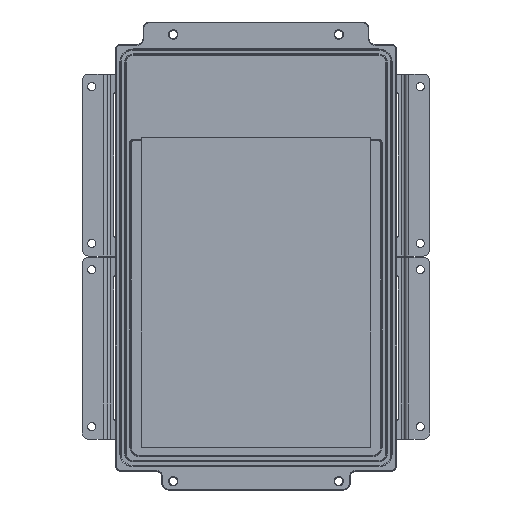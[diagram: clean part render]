
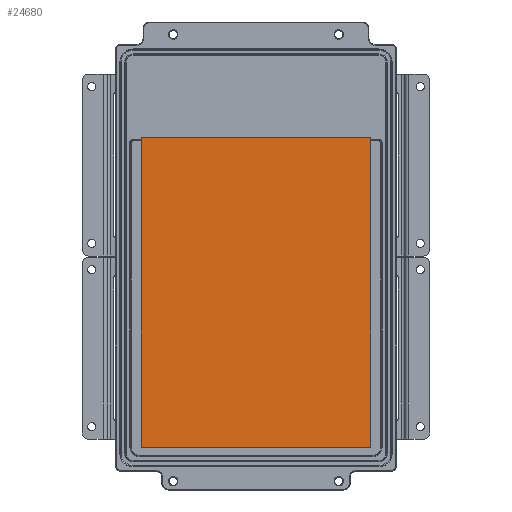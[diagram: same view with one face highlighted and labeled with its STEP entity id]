
A CAD part, front view. The second image highlights one B-rep face of the part: STEP entity #24680.
In plain terms, the highlighted planar face has unit normal (0, -1, 0).
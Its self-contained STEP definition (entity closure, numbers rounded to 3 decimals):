
#2479 = CARTESIAN_POINT ( 'NONE',  ( 93.5, -29.5, 96. ) ) ;
#4605 = CARTESIAN_POINT ( 'NONE',  ( 93.5, -29.5, -151. ) ) ;
#8665 = ORIENTED_EDGE ( 'NONE', *, *, #58383, .T. ) ;
#9535 = CARTESIAN_POINT ( 'NONE',  ( 93.5, -29.5, -151. ) ) ;
#9810 = CARTESIAN_POINT ( 'NONE',  ( -89.5, -29.5, 96. ) ) ;
#17256 = LINE ( 'NONE', #48571, #68547 ) ;
#22972 = CARTESIAN_POINT ( 'NONE',  ( -89.5, -29.5, 96. ) ) ;
#24359 = ORIENTED_EDGE ( 'NONE', *, *, #24822, .F. ) ;
#24680 = ADVANCED_FACE ( 'NONE', ( #27367 ), #36388, .F. ) ;
#24822 = EDGE_CURVE ( 'NONE', #71107, #39186, #17256, .T. ) ;
#25147 = ORIENTED_EDGE ( 'NONE', *, *, #47202, .F. ) ;
#26247 = DIRECTION ( 'NONE',  ( -1., 0., 0. ) ) ;
#27367 = FACE_OUTER_BOUND ( 'NONE', #33044, .T. ) ;
#30384 = DIRECTION ( 'NONE',  ( 0., 0., 1. ) ) ;
#30918 = DIRECTION ( 'NONE',  ( 1., 0., 0. ) ) ;
#33044 = EDGE_LOOP ( 'NONE', ( #8665, #40662, #25147, #24359 ) ) ;
#36388 = PLANE ( 'NONE',  #66821 ) ;
#36973 = EDGE_CURVE ( 'NONE', #89996, #67970, #103758, .T. ) ;
#39186 = VERTEX_POINT ( 'NONE', #96111 ) ;
#40662 = ORIENTED_EDGE ( 'NONE', *, *, #36973, .F. ) ;
#45790 = CARTESIAN_POINT ( 'NONE',  ( 93.5, -29.5, -151. ) ) ;
#47202 = EDGE_CURVE ( 'NONE', #39186, #89996, #47399, .T. ) ;
#47399 = LINE ( 'NONE', #79802, #81131 ) ;
#48571 = CARTESIAN_POINT ( 'NONE',  ( 93.5, -29.5, -151. ) ) ;
#58383 = EDGE_CURVE ( 'NONE', #71107, #67970, #102682, .T. ) ;
#61348 = DIRECTION ( 'NONE',  ( 0., 0., -1. ) ) ;
#62789 = VECTOR ( 'NONE', #30918, 1000. ) ;
#66821 = AXIS2_PLACEMENT_3D ( 'NONE', #4605, #83690, #61348 ) ;
#67970 = VERTEX_POINT ( 'NONE', #2479 ) ;
#68547 = VECTOR ( 'NONE', #26247, 1000. ) ;
#71107 = VERTEX_POINT ( 'NONE', #9535 ) ;
#79802 = CARTESIAN_POINT ( 'NONE',  ( -89.5, -29.5, -151. ) ) ;
#81131 = VECTOR ( 'NONE', #30384, 1000. ) ;
#83690 = DIRECTION ( 'NONE',  ( 0., 1., 0. ) ) ;
#88295 = DIRECTION ( 'NONE',  ( 0., 0., 1. ) ) ;
#89996 = VERTEX_POINT ( 'NONE', #9810 ) ;
#96111 = CARTESIAN_POINT ( 'NONE',  ( -89.5, -29.5, -151. ) ) ;
#100309 = VECTOR ( 'NONE', #88295, 1000. ) ;
#102682 = LINE ( 'NONE', #45790, #100309 ) ;
#103758 = LINE ( 'NONE', #22972, #62789 ) ;
